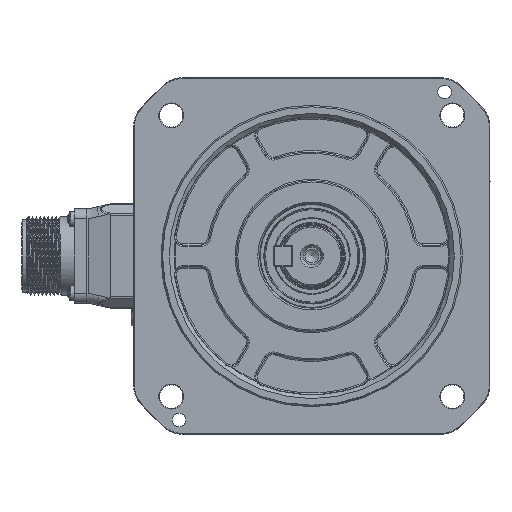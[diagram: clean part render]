
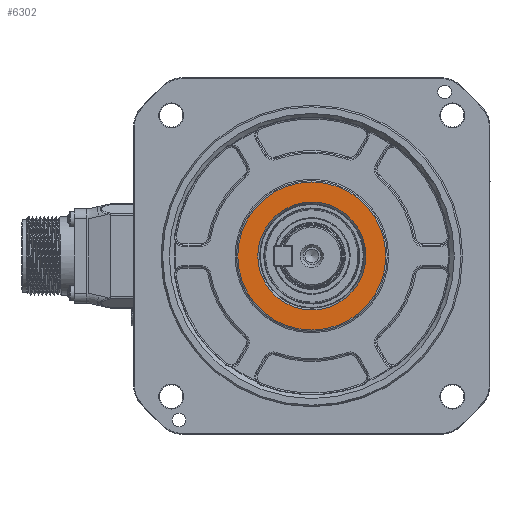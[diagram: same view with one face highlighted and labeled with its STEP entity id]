
A CAD part, left-side view. The second image highlights one B-rep face of the part: STEP entity #6302.
In plain terms, the highlighted planar face has unit normal (-1, 0, 0).
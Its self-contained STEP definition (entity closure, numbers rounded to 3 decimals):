
#1305 = AXIS2_PLACEMENT_3D ( 'NONE', #52073, #22998, #70860 ) ;
#6302 = ADVANCED_FACE ( 'NONE', ( #34682, #44376 ), #81340, .F. ) ;
#22998 = DIRECTION ( 'NONE',  ( -1., 0., 0. ) ) ;
#23251 = ORIENTED_EDGE ( 'NONE', *, *, #49000, .T. ) ;
#33364 = EDGE_CURVE ( 'NONE', #49166, #49166, #115560, .T. ) ;
#34094 = CARTESIAN_POINT ( 'NONE',  ( 0.8, 27.5, 0. ) ) ;
#34682 = FACE_BOUND ( 'NONE', #76786, .T. ) ;
#36519 = CARTESIAN_POINT ( 'NONE',  ( 0.8, 0., 0. ) ) ;
#44376 = FACE_OUTER_BOUND ( 'NONE', #79130, .T. ) ;
#49000 = EDGE_CURVE ( 'NONE', #65987, #65987, #93787, .T. ) ;
#49166 = VERTEX_POINT ( 'NONE', #104930 ) ;
#49345 = AXIS2_PLACEMENT_3D ( 'NONE', #36519, #102009, #92884 ) ;
#52073 = CARTESIAN_POINT ( 'NONE',  ( 0.8, 0., 0. ) ) ;
#65987 = VERTEX_POINT ( 'NONE', #102395 ) ;
#70860 = DIRECTION ( 'NONE',  ( 0., 0., -1. ) ) ;
#76786 = EDGE_LOOP ( 'NONE', ( #77075 ) ) ;
#77075 = ORIENTED_EDGE ( 'NONE', *, *, #33364, .F. ) ;
#77222 = AXIS2_PLACEMENT_3D ( 'NONE', #34094, #118973, #90442 ) ;
#79130 = EDGE_LOOP ( 'NONE', ( #23251 ) ) ;
#81340 = PLANE ( 'NONE',  #77222 ) ;
#90442 = DIRECTION ( 'NONE',  ( 0., 0., -1. ) ) ;
#92884 = DIRECTION ( 'NONE',  ( 0., 0., -1. ) ) ;
#93787 = CIRCLE ( 'NONE', #49345, 27. ) ;
#102009 = DIRECTION ( 'NONE',  ( -1., 0., 0. ) ) ;
#102395 = CARTESIAN_POINT ( 'NONE',  ( 0.8, 0., -27. ) ) ;
#104930 = CARTESIAN_POINT ( 'NONE',  ( 0.8, 0., -19.693 ) ) ;
#115560 = CIRCLE ( 'NONE', #1305, 19.693 ) ;
#118973 = DIRECTION ( 'NONE',  ( 1., 0., 0. ) ) ;
